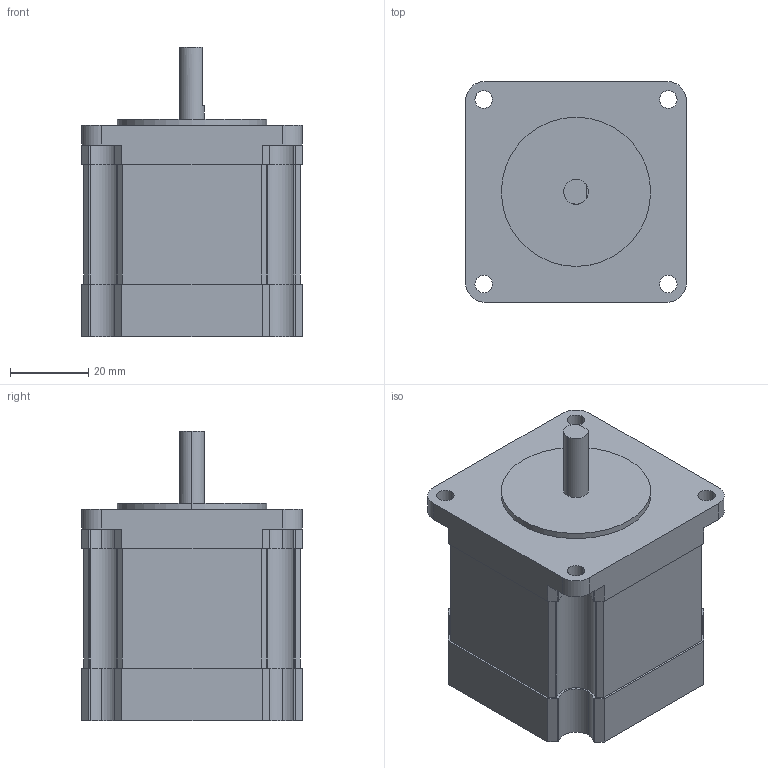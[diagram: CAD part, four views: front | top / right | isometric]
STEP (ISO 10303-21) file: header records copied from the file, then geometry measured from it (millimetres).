
FILE_DESCRIPTION (( 'STEP AP214' ), '1' );
FILE_NAME ('TS3690N2E4.STEP', '2016-09-09T01:39:34', ( 'hoho' ), ( '' ), 'SwSTEP 2.0', 'SolidWorks 2013', '' );
FILE_SCHEMA (( 'AUTOMOTIVE_DESIGN' ));
Length unit declared in the file: millimetre
Products named in the file (1): TS3690N2E4
Bounding box: 56.4 x 56.4 x 74 mm (x, y, z)
Volume: 154225.3 mm3; surface area: 19016.6 mm2
Topology: 1 solids, 1 shells, 112 faces, 318 edges, 212 vertices
Faces by surface type: cylinder 64, plane 48
Entity records: 4050 total; most frequent: DIRECTION 674, CARTESIAN_POINT 643, ORIENTED_EDGE 636, EDGE_CURVE 318, AXIS2_PLACEMENT_3D 243, VERTEX_POINT 212, LINE 188, VECTOR 188
